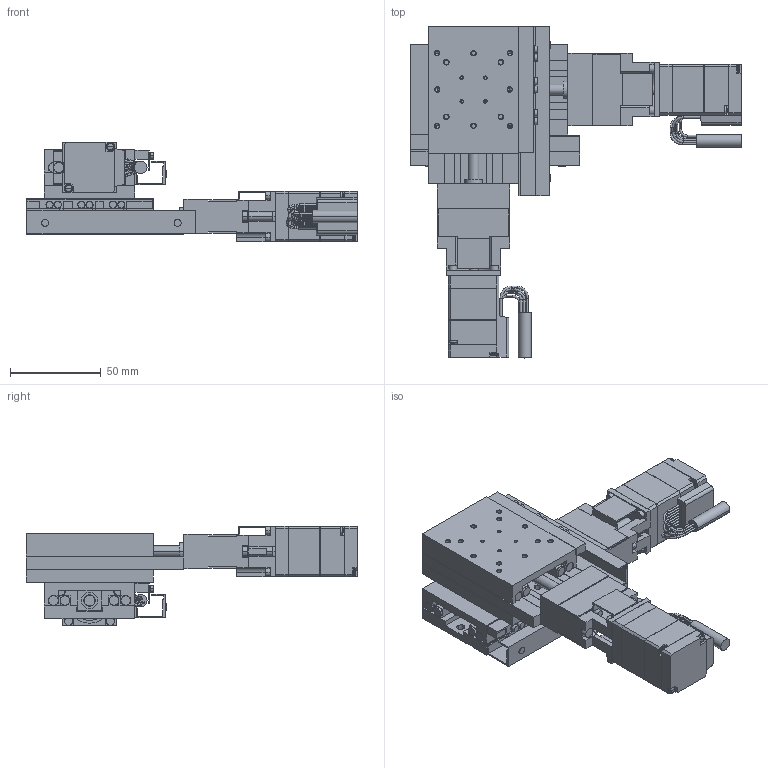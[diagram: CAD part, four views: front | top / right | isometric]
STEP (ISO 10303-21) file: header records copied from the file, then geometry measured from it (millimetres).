
FILE_DESCRIPTION(('STEP AP203'),'1');
FILE_NAME('C:/3D-Trans/3D_PMG530T-R□-PA+240122.step','2024-03-14T08:30:35',(' '),(' '),'Spatial InterOp 3D',' ',' ');
FILE_SCHEMA(('CONFIG_CONTROL_DESIGN'));
Length unit declared in the file: millimetre
Products named in the file (13): 1; 2; 3; 4; 5; 6; 7; 8; 9; 10; 11; 12; 13
Bounding box: 182.9 x 182.9 x 55 mm (x, y, z)
Volume: 275813.4 mm3; surface area: 125304.6 mm2
Topology: 13 solids, 13 shells, 1554 faces, 4076 edges, 2568 vertices
Faces by surface type: plane 776, cylinder 470, cone 180, torus 128
Entity records: 48802 total; most frequent: CARTESIAN_POINT 8735, DIRECTION 8668, ORIENTED_EDGE 8040, EDGE_CURVE 4020, AXIS2_PLACEMENT_3D 3125, VERTEX_POINT 2568, LINE 2418, VECTOR 2418
